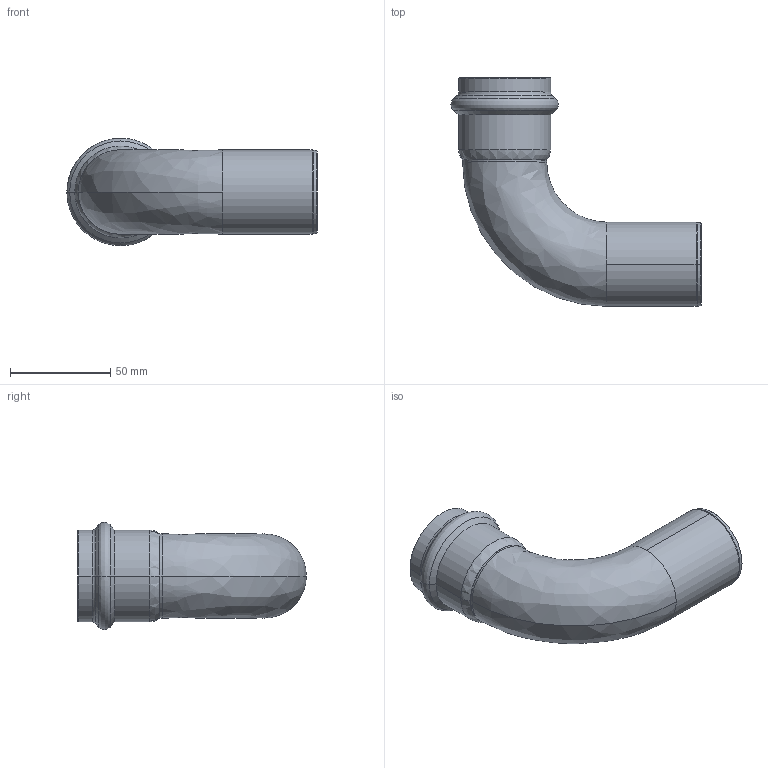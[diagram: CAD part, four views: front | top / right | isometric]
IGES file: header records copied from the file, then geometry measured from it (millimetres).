
Start section: Elysium IGES Interface
Global section: file name: C:\Users\Wallenburg\Desktop\3d modellen sudo\S-Pr VP\SP6001V\6001VW42.igs; native system: CoCreate Modeling 17.00A  17-Jun-2010; preprocessor: CoCreate IGES_3D V2.2; author: Unknown; organization: Unknown; date: 20130115.160129; units: millimetre
Bounding box: 124.81 x 114.07 x 53.57 mm (x, y, z)
Volume: 41701.7 mm3; surface area: 45348.9 mm2
Topology: 1 solids, 1 shells, 60 faces, 132 edges, 74 vertices
Faces by surface type: bspline 60
